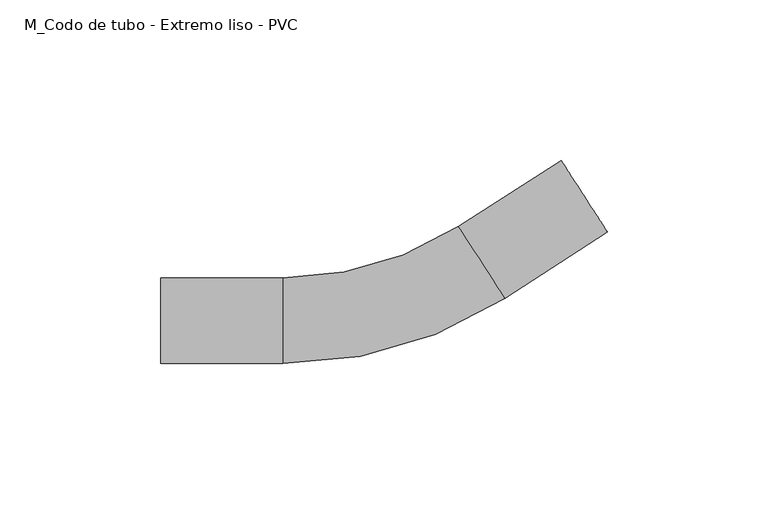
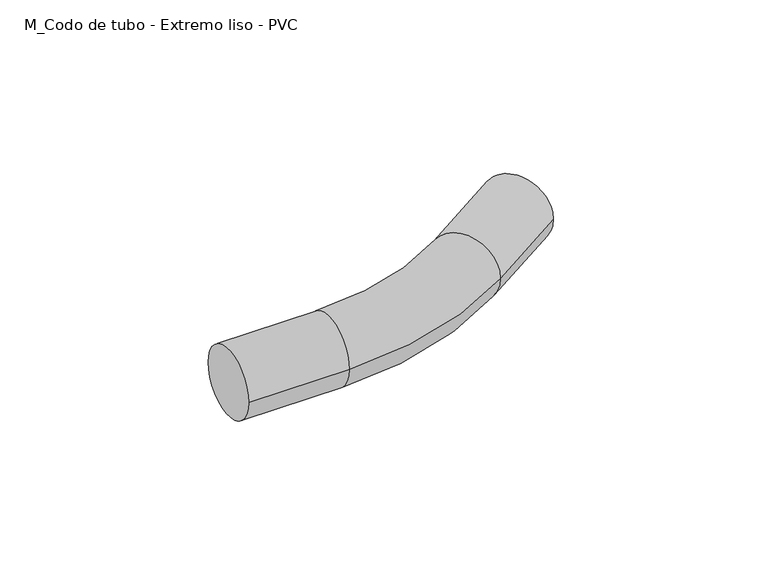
"""IFC4 building model written with IfcOpenShell, lengths in millimetres: cable carrier fitting geometry, M_Codo de tubo - Extremo liso - PVC : CODO ILUMINACION."""

from ifc_helpers import new_model, si_unit, point, frame, origin, place, context, project, spatial, circle_curve, ellipse_curve, trimmed, source, transform, mapped, element, save
from ifc_brep_helpers import plane_surface, cylinder_surface, revolved_surface, advanced_brep


def m_codo_de_tubo_extremo_liso_pvc_cdaa3b49(model_context):
    return source(origin(), model_context, "Body", "AdvancedBrep", [
        advanced_brep(
        [(-71.7207465, -13.335, 0.0), (-71.7207465, 13.335, 0.0), (-33.6207465, -13.335, 0.0), (-33.6207465, 13.335, 0.0), (21.0460702, 29.4149579, 0.0), (35.4863614, 6.9924939, 0.0), (67.5184528, 27.6214814, 0.0), (53.0781616, 50.0439453, 0.0)],
        [
            (0, 1, circle_curve(frame((-71.7207465, 0.0, 0.0), z_axis=(-1.0, 0.0, 0.0), x_axis=(0.0, 1.0, 0.0)), 13.335)),
            (1, 0, circle_curve(frame((-71.7207465, 0.0, 0.0), z_axis=(-1.0, 0.0, 0.0), x_axis=(0.0, 1.0, 0.0)), 13.335)),
            (0, 2),
            (2, 3, circle_curve(frame((-33.6207465, 0.0, 0.0), z_axis=(-1.0, 0.0, 0.0), x_axis=(0.0, 1.0, 0.0)), 13.335)),
            (3, 1),
            (3, 2, circle_curve(frame((-33.6207465, 0.0, 0.0), z_axis=(-1.0, 0.0, 0.0), x_axis=(0.0, 1.0, 0.0)), 13.335)),
            (4, 3, circle_curve(frame((-33.6207465, 114.3, 0.0), z_axis=(0.0, 0.0, -1.0), x_axis=(0.0, -1.0, 0.0)), 100.965)),
            (2, 5, circle_curve(frame((-33.6207465, 114.3, 0.0), z_axis=(0.0, 0.0, 1.0), x_axis=(0.0, -1.0, 0.0)), 127.635)),
            (5, 4, circle_curve(frame((28.2662158, 18.2037259, 0.0), z_axis=(-0.8407373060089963, -0.5414432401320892, 0.0), x_axis=(-0.5414432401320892, 0.8407373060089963, 0.0)), 13.335)),
            (4, 5, circle_curve(frame((28.2662158, 18.2037259, 0.0), z_axis=(-0.8407373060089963, -0.5414432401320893, 0.0), x_axis=(-0.5414432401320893, 0.8407373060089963, 0.0)), 13.335)),
            (6, 7, circle_curve(frame((60.2983072, 38.8327134, 0.0), z_axis=(0.8407373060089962, 0.5414432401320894, 0.0), x_axis=(-0.5414432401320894, 0.8407373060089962, 0.0)), 13.335)),
            (7, 6, circle_curve(frame((60.2983072, 38.8327134, 0.0), z_axis=(0.8407373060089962, 0.5414432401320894, 0.0), x_axis=(-0.5414432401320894, 0.8407373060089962, 0.0)), 13.335)),
            (5, 6),
            (7, 4),
        ],
        [
            plane_surface(frame((-71.7207465, 0.0, 0.0), z_axis=(-1.0, 0.0, 0.0), x_axis=(0.0, 0.0, 1.0))),
            cylinder_surface(frame((-71.7207465, 0.0, 0.0), z_axis=(-1.0, 0.0, 0.0), x_axis=(0.0, 1.0, 0.0)), 13.335),
            revolved_surface(trimmed(ellipse_curve(frame((-33.6207465, 0.0, 0.0), z_axis=(-1.0, 0.0, 0.0), x_axis=(0.0, 1.0, 0.0)), 13.335, 13.335), [point((-33.6207465, -13.335, 0.0))], [point((-33.6207465, 13.335, 0.0))], True, "CARTESIAN"), (-33.6207465, 114.3, 0.0), (0.0, 0.0, 1.0)),
            revolved_surface(trimmed(ellipse_curve(frame((-33.6207465, 0.0, 0.0), z_axis=(-1.0, 0.0, 0.0), x_axis=(0.0, 1.0, 0.0)), 13.335, 13.335), [point((-33.6207465, 13.335, 0.0))], [point((-33.6207465, -13.335, 0.0))], True, "CARTESIAN"), (-33.6207465, 114.3, 0.0), (0.0, 0.0, 1.0)),
            plane_surface(frame((60.2983072, 38.8327134, 0.0), z_axis=(0.8407373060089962, 0.5414432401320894, 0.0), x_axis=(0.0, 0.0, 1.0))),
            cylinder_surface(frame((28.2662158, 18.2037259, 0.0), z_axis=(-0.8407373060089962, -0.5414432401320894, 0.0), x_axis=(-0.5414432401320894, 0.8407373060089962, 0.0)), 13.335),
        ],
        [
            (0, [[1, 2]]),
            (1, [[-1, 3, 4, 5]]),
            (1, [[-2, -5, 6, -3]]),
            (2, [[7, -4, 8, 9]]),
            (3, [[-8, -6, -7, 10]]),
            (4, [[11, 12]]),
            (5, [[-9, 13, -12, 14]]),
            (5, [[-10, -14, -11, -13]]),
        ],
    ),
    ])


if __name__ == "__main__":
    model = new_model("IFC4")
    model_context = context("Model", 3, world=origin())
    ifc_project = project(units=[si_unit("LENGTHUNIT", "METRE", prefix="MILLI")], contexts=[model_context])
    site = spatial("IfcSite", under=ifc_project)
    building = spatial("IfcBuilding", under=site)
    placement = place(None, origin())
    m_codo_de_tubo_extremo_liso_pvc_shape = m_codo_de_tubo_extremo_liso_pvc_cdaa3b49(model_context)
    element("IfcCableCarrierFitting", 1, ObjectType="M_Codo de tubo - Extremo liso - PVC : CODO ILUMINACION", at=placement, inside=building, context=model_context, shape_type="MappedRepresentation", body=[
        mapped(m_codo_de_tubo_extremo_liso_pvc_shape, transform((0.0, 0.0, 0.0), x_axis=(1.0, 0.0, 0.0), y_axis=(0.0, 1.0, 0.0), z_axis=(0.0, 0.0, 1.0))),
    ])
    save(model, "model.ifc")
